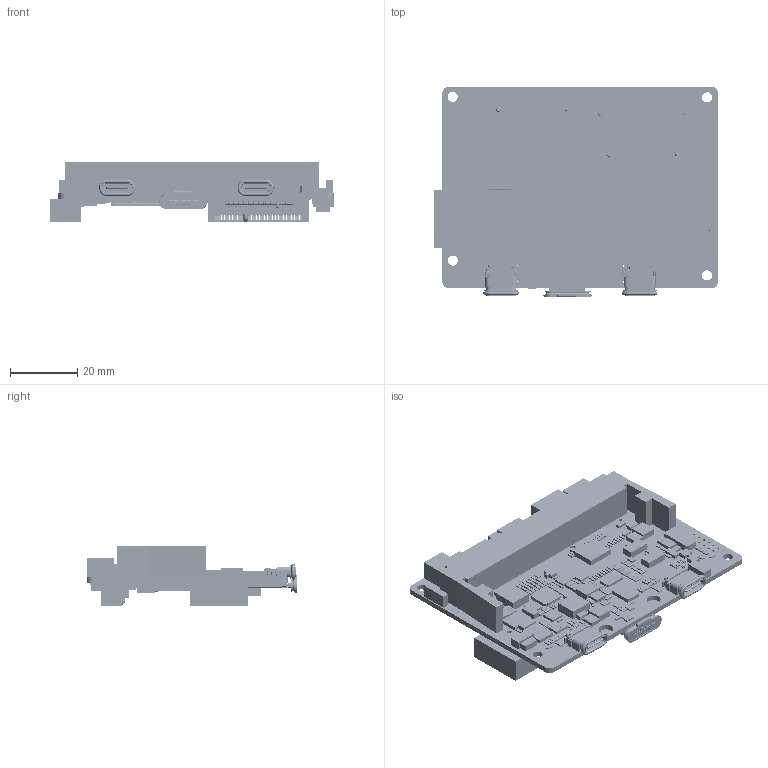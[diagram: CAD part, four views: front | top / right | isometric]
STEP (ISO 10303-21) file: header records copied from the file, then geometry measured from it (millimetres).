
FILE_DESCRIPTION((''),'2;1');
FILE_NAME('Y-C17-V1-0_0331_ASM_STEP_ASM','2025-11-24T17:08:41',('Lenovo'),(''),'CREO PARAMETRIC BY PTC INC, 2022073','CREO PARAMETRIC BY PTC INC, 2022073','');
FILE_SCHEMA(('AUTOMOTIVE_DESIGN { 1 0 10303 214 1 1 1 1 }'));
Products named in the file (406): NONE-27161; NONE-46625; NONE-55955; NONE-57155; NONE-64975; NONE-76984; NONE-85946; NONE-90432; NONE-103918; NONE-119277; NONE-174778; NONE-213789; NONE-215296; NONE-216864; NONE-240767; NONE-252797; NONE-269231; NONE-278264; NONE-300807; NONE-323307; NONE-347595; NONE-354884; NONE-382164; NONE-407635; NONE-444050; NONE-459015; NONE-471020; NONE-478521; NONE-513056; NONE-526525; NONE-531053; NONE-540042; NONE-559628; NONE-595685; NONE-600161; NONE-603187; NONE-607972; NONE-609161; NONE-612183; NONE-643730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
Assembly tree (848 placements, depth 5):
  Y-C17-V1-0_0331_ASM_STEP_ASM
    TYPE_C_24PIN____________-447914_ASM
      TYPE_C_24PIN_____________-74140_ASM
        GROUP1_24_PIN_MIM_STEP_STEP_STE_ASM
          NONE-27161
          NONE-46625
          NONE-55955
          NONE-57155
          NONE-64975
          NONE-76984
          NONE-85946
          NONE-90432
          NONE-103918
          NONE-119277
          NONE-174778
          NONE-213789
          NONE-215296
          NONE-216864
          NONE-240767
          NONE-252797
          NONE-269231
          NONE-278264
          NONE-300807
          NONE-323307
          NONE-347595
          NONE-354884
          NONE-382164
          NONE-407635
          NONE-444050
          NONE-459015
          NONE-471020
          NONE-478521
          NONE-513056
          NONE-526525
          NONE-531053
          NONE-540042
          NONE-559628
          NONE-595685
          NONE-600161
          NONE-603187
          NONE-607972
          NONE-609161
          NONE-612183
          NONE-643730
          NONE-649999
          NONE-654218
          NONE-654502
          NONE-660477
          NONE-661676
          NONE-675518
          NONE-696479
          NONE-705547
          NONE-710054
          NONE-741898
          NONE-752357
          NONE-758379
          NONE-803438
          NONE-834971
          NONE-842523
          NONE-896531
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Bounding box: 84.47 x 62.7 x 18.12 mm (x, y, z)
Volume: 24754.5 mm3; surface area: 47450.3 mm2
Topology: 891 solids, 899 shells, 41544 faces, 113462 edges, 73625 vertices
Faces by surface type: plane 29372, cylinder 10203, torus 690, cone 586, extrusion 568, bspline 109, sphere 16
Entity records: 840500 total; most frequent: CARTESIAN_POINT 162372, ORIENTED_EDGE 138316, DIRECTION 135106, EDGE_CURVE 69160, VECTOR 54286, LINE 53977, VERTEX_POINT 44643, AXIS2_PLACEMENT_3D 40410
